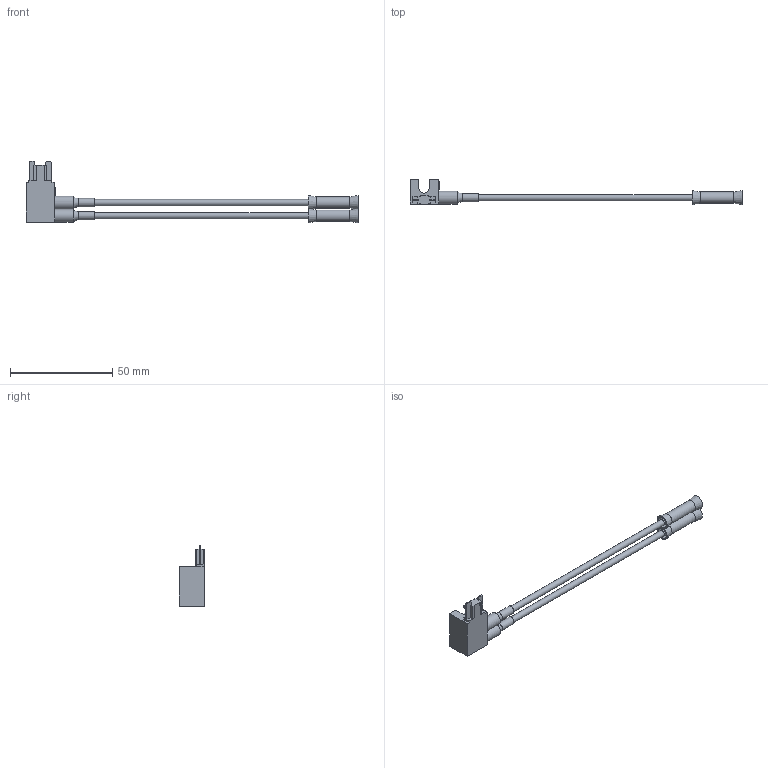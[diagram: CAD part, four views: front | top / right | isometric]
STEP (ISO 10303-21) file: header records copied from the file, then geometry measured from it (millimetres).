
FILE_DESCRIPTION(/* description */ (''),/* implementation_level */ '2;1');
FILE_NAME(/* name */ 'C:\Users\Hani\Desktop\work\LPS-08\LPS-08-3.stp',/* time_stamp */ '2021-07-24T14:36:12-07:00',/* author */ ('Hani'),/* organization */ (''),/* preprocessor_version */ 'ST-DEVELOPER v17',/* originating_system */ 'Autodesk Inventor 2019',/* authorisation */ '');
FILE_SCHEMA (('AUTOMOTIVE_DESIGN { 1 0 10303 214 3 1 1 }'));
Length unit declared in the file: inch
Products named in the file (1): LPS-08-3
Bounding box: 162.56 x 12.53 x 30.31 mm (x, y, z)
Volume: 5379.1 mm3; surface area: 6505 mm2
Topology: 1 solids, 1 shells, 261 faces, 719 edges, 476 vertices
Faces by surface type: plane 168, bspline 67, cylinder 14, cone 10, torus 2
Full cylindrical faces by diameter (mm): 3.048 x4, 4.064 x2, 5.588 x2, 6.35 x2
Entity records: 8793 total; most frequent: CARTESIAN_POINT 2362, ORIENTED_EDGE 1438, DIRECTION 1027, EDGE_CURVE 719, LINE 529, VECTOR 529, VERTEX_POINT 476, EDGE_LOOP 281
